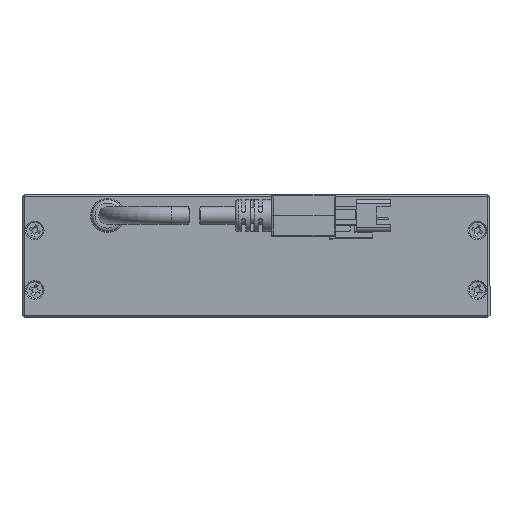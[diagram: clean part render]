
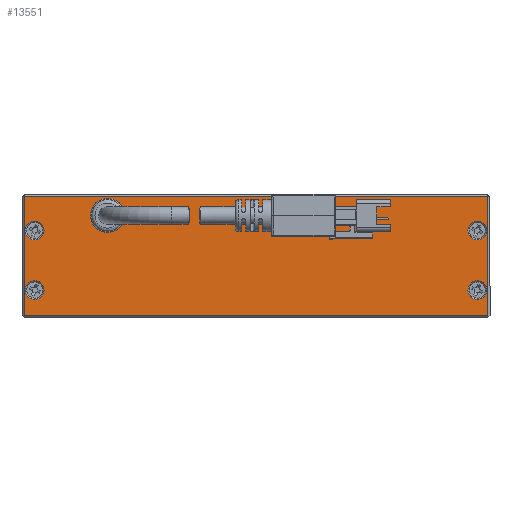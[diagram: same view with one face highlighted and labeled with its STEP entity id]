
A CAD part, front view. The second image highlights one B-rep face of the part: STEP entity #13551.
In plain terms, the highlighted planar face has unit normal (0, -1, 0).
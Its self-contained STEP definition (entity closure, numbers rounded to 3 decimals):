
#13 = VECTOR ( 'NONE', #12891, 1000. ) ;
#38 = CARTESIAN_POINT ( 'NONE',  ( 54.5, -55., 2. ) ) ;
#162 = AXIS2_PLACEMENT_3D ( 'NONE', #10772, #607, #14029 ) ;
#207 = CARTESIAN_POINT ( 'NONE',  ( -32.1, -55., 0. ) ) ;
#284 = LINE ( 'NONE', #11258, #13 ) ;
#497 = EDGE_CURVE ( 'NONE', #2571, #8384, #3195, .T. ) ;
#607 = DIRECTION ( 'NONE',  ( 0., -1., 0. ) ) ;
#630 = ORIENTED_EDGE ( 'NONE', *, *, #5626, .F. ) ;
#801 = VERTEX_POINT ( 'NONE', #16196 ) ;
#940 = ORIENTED_EDGE ( 'NONE', *, *, #2789, .T. ) ;
#1064 = CARTESIAN_POINT ( 'NONE',  ( -55., -55., 2. ) ) ;
#1070 = DIRECTION ( 'NONE',  ( -1., 0., 0. ) ) ;
#1304 = LINE ( 'NONE', #19277, #14590 ) ;
#1510 = CARTESIAN_POINT ( 'NONE',  ( -32.1, -55., -3. ) ) ;
#2064 = FACE_BOUND ( 'NONE', #13068, .T. ) ;
#2436 = VECTOR ( 'NONE', #19454, 1000. ) ;
#2571 = VERTEX_POINT ( 'NONE', #7438 ) ;
#2698 = VECTOR ( 'NONE', #3435, 1000. ) ;
#2789 = EDGE_CURVE ( 'NONE', #13561, #2571, #7907, .T. ) ;
#3122 = DIRECTION ( 'NONE',  ( -1., 0., 0. ) ) ;
#3195 = LINE ( 'NONE', #9993, #7713 ) ;
#3432 = EDGE_LOOP ( 'NONE', ( #19296 ) ) ;
#3435 = DIRECTION ( 'NONE',  ( 0., 0., 1. ) ) ;
#3447 = AXIS2_PLACEMENT_3D ( 'NONE', #15243, #18661, #11902 ) ;
#4133 = AXIS2_PLACEMENT_3D ( 'NONE', #19598, #17893, #21293 ) ;
#4351 = CARTESIAN_POINT ( 'NONE',  ( 52., -55., -6.5 ) ) ;
#4554 = CARTESIAN_POINT ( 'NONE',  ( 54.5, -55., -26.5 ) ) ;
#4845 = VERTEX_POINT ( 'NONE', #14803 ) ;
#4874 = CARTESIAN_POINT ( 'NONE',  ( -54.2, -55., -6.5 ) ) ;
#5178 = ORIENTED_EDGE ( 'NONE', *, *, #9462, .F. ) ;
#5313 = CIRCLE ( 'NONE', #162, 2.2 ) ;
#5626 = EDGE_CURVE ( 'NONE', #17022, #12990, #18275, .T. ) ;
#5789 = CARTESIAN_POINT ( 'NONE',  ( -55., -55., -26.5 ) ) ;
#6727 = CARTESIAN_POINT ( 'NONE',  ( 49.8, -55., -20.5 ) ) ;
#6757 = EDGE_LOOP ( 'NONE', ( #11101 ) ) ;
#7134 = FACE_BOUND ( 'NONE', #12150, .T. ) ;
#7291 = CIRCLE ( 'NONE', #16646, 2.2 ) ;
#7327 = CIRCLE ( 'NONE', #4133, 2.2 ) ;
#7438 = CARTESIAN_POINT ( 'NONE',  ( -54.5, -55., 1.5 ) ) ;
#7707 = CARTESIAN_POINT ( 'NONE',  ( -54.2, -55., -20.5 ) ) ;
#7713 = VECTOR ( 'NONE', #10067, 1000. ) ;
#7802 = DIRECTION ( 'NONE',  ( 0., -1., 0. ) ) ;
#7907 = LINE ( 'NONE', #9798, #15895 ) ;
#8062 = ORIENTED_EDGE ( 'NONE', *, *, #497, .T. ) ;
#8110 = DIRECTION ( 'NONE',  ( 0., 0., 1. ) ) ;
#8360 = ORIENTED_EDGE ( 'NONE', *, *, #9946, .F. ) ;
#8384 = VERTEX_POINT ( 'NONE', #9198 ) ;
#8687 = EDGE_CURVE ( 'NONE', #17022, #801, #1304, .T. ) ;
#9019 = FACE_BOUND ( 'NONE', #3432, .T. ) ;
#9115 = DIRECTION ( 'NONE',  ( 0., 0., 1. ) ) ;
#9198 = CARTESIAN_POINT ( 'NONE',  ( -54.5, -55., -26.5 ) ) ;
#9388 = EDGE_LOOP ( 'NONE', ( #940, #8062, #14573, #12974 ) ) ;
#9443 = DIRECTION ( 'NONE',  ( 0., -1., 0. ) ) ;
#9462 = EDGE_CURVE ( 'NONE', #17340, #17340, #7327, .T. ) ;
#9514 = CARTESIAN_POINT ( 'NONE',  ( 54.5, -55., 1.5 ) ) ;
#9798 = CARTESIAN_POINT ( 'NONE',  ( -55., -55., 1.5 ) ) ;
#9900 = ORIENTED_EDGE ( 'NONE', *, *, #21267, .F. ) ;
#9946 = EDGE_CURVE ( 'NONE', #12990, #13091, #13399, .T. ) ;
#9993 = CARTESIAN_POINT ( 'NONE',  ( -54.5, -55., 2. ) ) ;
#10067 = DIRECTION ( 'NONE',  ( 0., 0., -1. ) ) ;
#10283 = VERTEX_POINT ( 'NONE', #6727 ) ;
#10771 = CARTESIAN_POINT ( 'NONE',  ( -37.7, -55., -3. ) ) ;
#10772 = CARTESIAN_POINT ( 'NONE',  ( 52., -55., -20.5 ) ) ;
#11101 = ORIENTED_EDGE ( 'NONE', *, *, #20816, .F. ) ;
#11118 = FACE_OUTER_BOUND ( 'NONE', #9388, .T. ) ;
#11143 = DIRECTION ( 'NONE',  ( -1., 0., 0. ) ) ;
#11218 = DIRECTION ( 'NONE',  ( 0., 1., 0. ) ) ;
#11258 = CARTESIAN_POINT ( 'NONE',  ( -55., -55., 0. ) ) ;
#11445 = VERTEX_POINT ( 'NONE', #4874 ) ;
#11628 = VERTEX_POINT ( 'NONE', #4554 ) ;
#11739 = EDGE_CURVE ( 'NONE', #11628, #13561, #14637, .T. ) ;
#11902 = DIRECTION ( 'NONE',  ( -1., 0., 0. ) ) ;
#11931 = EDGE_CURVE ( 'NONE', #8384, #11628, #16759, .T. ) ;
#12150 = EDGE_LOOP ( 'NONE', ( #5178 ) ) ;
#12555 = AXIS2_PLACEMENT_3D ( 'NONE', #1064, #11218, #11143 ) ;
#12837 = EDGE_LOOP ( 'NONE', ( #16636, #13781, #8360, #630 ) ) ;
#12891 = DIRECTION ( 'NONE',  ( 1., 0., 0. ) ) ;
#12920 = DIRECTION ( 'NONE',  ( -1., 0., 0. ) ) ;
#12966 = FACE_BOUND ( 'NONE', #12837, .T. ) ;
#12974 = ORIENTED_EDGE ( 'NONE', *, *, #11739, .T. ) ;
#12990 = VERTEX_POINT ( 'NONE', #1510 ) ;
#13068 = EDGE_LOOP ( 'NONE', ( #9900 ) ) ;
#13091 = VERTEX_POINT ( 'NONE', #207 ) ;
#13399 = LINE ( 'NONE', #21549, #21898 ) ;
#13551 = ADVANCED_FACE ( 'NONE', ( #12966, #11118, #21998, #9019, #2064, #7134 ), #14698, .F. ) ;
#13561 = VERTEX_POINT ( 'NONE', #9514 ) ;
#13781 = ORIENTED_EDGE ( 'NONE', *, *, #19720, .T. ) ;
#14029 = DIRECTION ( 'NONE',  ( -1., 0., 0. ) ) ;
#14573 = ORIENTED_EDGE ( 'NONE', *, *, #11931, .T. ) ;
#14590 = VECTOR ( 'NONE', #9115, 1000. ) ;
#14637 = LINE ( 'NONE', #38, #2698 ) ;
#14698 = PLANE ( 'NONE',  #12555 ) ;
#14803 = CARTESIAN_POINT ( 'NONE',  ( 49.8, -55., -6.5 ) ) ;
#15002 = EDGE_CURVE ( 'NONE', #4845, #4845, #7291, .T. ) ;
#15243 = CARTESIAN_POINT ( 'NONE',  ( -52., -55., -6.5 ) ) ;
#15895 = VECTOR ( 'NONE', #3122, 1000. ) ;
#16196 = CARTESIAN_POINT ( 'NONE',  ( -37.7, -55., 0. ) ) ;
#16636 = ORIENTED_EDGE ( 'NONE', *, *, #8687, .T. ) ;
#16646 = AXIS2_PLACEMENT_3D ( 'NONE', #4351, #9443, #12920 ) ;
#16759 = LINE ( 'NONE', #5789, #2436 ) ;
#17022 = VERTEX_POINT ( 'NONE', #10771 ) ;
#17340 = VERTEX_POINT ( 'NONE', #7707 ) ;
#17748 = CIRCLE ( 'NONE', #3447, 2.2 ) ;
#17893 = DIRECTION ( 'NONE',  ( 0., -1., 0. ) ) ;
#17981 = CARTESIAN_POINT ( 'NONE',  ( -34.9, -55., -3. ) ) ;
#18275 = CIRCLE ( 'NONE', #19556, 2.8 ) ;
#18661 = DIRECTION ( 'NONE',  ( 0., -1., 0. ) ) ;
#19277 = CARTESIAN_POINT ( 'NONE',  ( -37.7, -55., 0. ) ) ;
#19296 = ORIENTED_EDGE ( 'NONE', *, *, #15002, .F. ) ;
#19454 = DIRECTION ( 'NONE',  ( 1., 0., 0. ) ) ;
#19556 = AXIS2_PLACEMENT_3D ( 'NONE', #17981, #7802, #1070 ) ;
#19598 = CARTESIAN_POINT ( 'NONE',  ( -52., -55., -20.5 ) ) ;
#19720 = EDGE_CURVE ( 'NONE', #801, #13091, #284, .T. ) ;
#20816 = EDGE_CURVE ( 'NONE', #10283, #10283, #5313, .T. ) ;
#21267 = EDGE_CURVE ( 'NONE', #11445, #11445, #17748, .T. ) ;
#21293 = DIRECTION ( 'NONE',  ( -1., 0., 0. ) ) ;
#21549 = CARTESIAN_POINT ( 'NONE',  ( -32.1, -55., -3. ) ) ;
#21898 = VECTOR ( 'NONE', #8110, 1000. ) ;
#21998 = FACE_BOUND ( 'NONE', #6757, .T. ) ;
